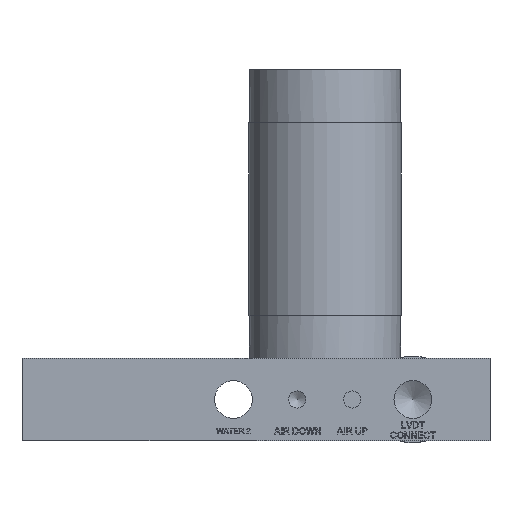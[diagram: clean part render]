
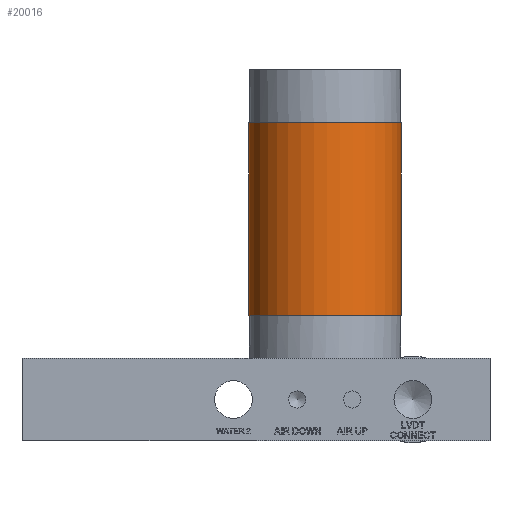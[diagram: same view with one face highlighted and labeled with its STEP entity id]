
A CAD part, front view. The second image highlights one B-rep face of the part: STEP entity #20016.
In plain terms, the highlighted cylindrical face has radius 17.59 mm (diameter 35.179 mm), a full revolution.
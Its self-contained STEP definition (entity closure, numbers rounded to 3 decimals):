
#5578=FACE_BOUND($,#7747,.T.);
#6539=FACE_OUTER_BOUND($,#7746,.T.);
#7746=EDGE_LOOP($,(#17344));
#7747=EDGE_LOOP($,(#17345));
#8050=CIRCLE($,#20914,17.59);
#8051=CIRCLE($,#20915,17.59);
#9780=VERTEX_POINT($,#33895);
#9781=VERTEX_POINT($,#33897);
#12350=EDGE_CURVE($,#9780,#9780,#8050,.T.);
#12351=EDGE_CURVE($,#9781,#9781,#8051,.T.);
#17344=ORIENTED_EDGE($,*,*,#12350,.T.);
#17345=ORIENTED_EDGE($,*,*,#12351,.F.);
#18036=CYLINDRICAL_SURFACE($,#20913,17.59);
#20016=ADVANCED_FACE($,(#6539,#5578),#18036,.T.);
#20913=AXIS2_PLACEMENT_3D($,#33894,#24479,#24480);
#20914=AXIS2_PLACEMENT_3D($,#33896,#24481,#24482);
#20915=AXIS2_PLACEMENT_3D($,#33898,#24483,#24484);
#24479=DIRECTION('center_axis',(0.,0.,
1.));
#24480=DIRECTION('ref_axis',(-1.,-0.026,0.));
#24481=DIRECTION('center_axis',(0.,0.,
-1.));
#24482=DIRECTION('ref_axis',(-1.,-0.026,0.));
#24483=DIRECTION('center_axis',(0.,0.,
-1.));
#24484=DIRECTION('ref_axis',(-1.,-0.026,0.));
#33894=CARTESIAN_POINT('Origin',(0.,0.,28.892));
#33895=CARTESIAN_POINT('',(17.583,0.46,73.342));
#33896=CARTESIAN_POINT('Origin',(0.,0.,
73.342));
#33897=CARTESIAN_POINT('',(17.583,0.46,28.892));
#33898=CARTESIAN_POINT('Origin',(0.,0.,28.892));
